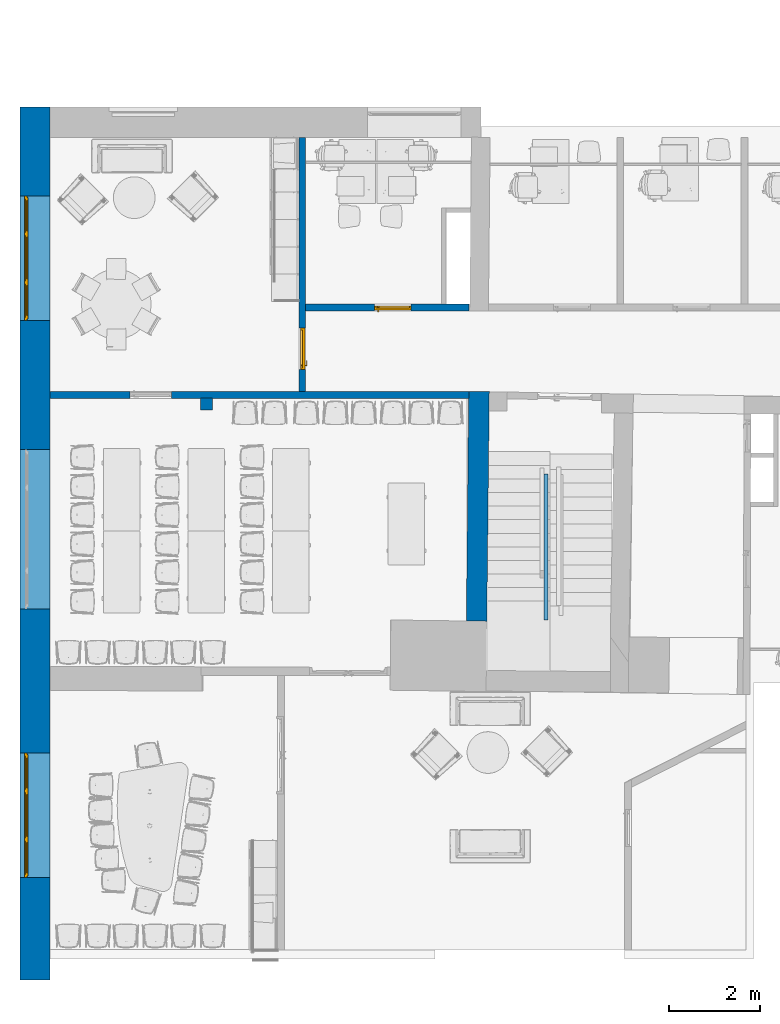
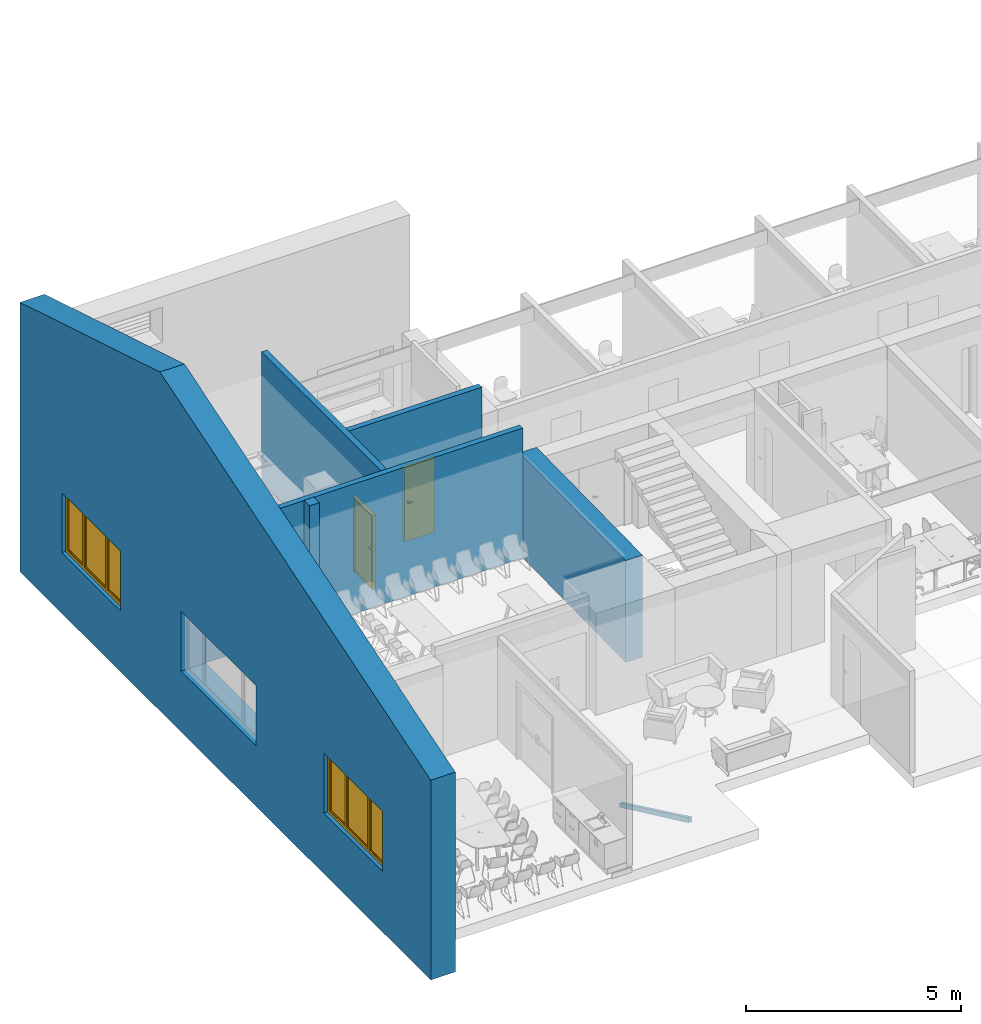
# One storey, part 2 of 19: 7 walls, 2 doors, 2 windows, 6 openings.
"""IFC2X3 building model written with IfcOpenShell, lengths in millimetres."""

import ifcopenshell
import ifcopenshell.guid

model = None  # the IFC model being written
_history = None  # IfcOwnerHistory: only IFC2X3 demands one
_inside = {}  # id of a spatial element -> (the spatial element, [elements in it])
_under = {}  # id of a project, library or spatial element -> (it, [spatial elements below it])
_declared = {}  # id of a project -> (the project, [libraries it declares])
_typed = {}  # id of a type object -> (the type object, [elements of that type])
_made_of = {}  # id of a material, layer set ... -> (it, [elements and type objects made of it])


def new_model(schema):
    """Start an empty IFC model of exactly this schema.

    Asked for "IFC4X3", IfcOpenShell would pick the latest addendum, in which some entities
    have other attributes; the version numbers below select the first issue.
    IFC2X3 requires an IfcOwnerHistory on every rooted entity: one is made here for all.
    """
    global model, _history
    if schema == "IFC4X3":
        model = ifcopenshell.file(schema_version=(4, 3, 0, 0))
    else:
        model = ifcopenshell.file(schema=schema)
    _inside.clear()
    _under.clear()
    _declared.clear()
    _typed.clear()
    _made_of.clear()
    _history = None
    if model.schema == "IFC2X3":
        org = make("IfcOrganization", Name="unknown")
        user = make(
            "IfcPersonAndOrganization",
            ThePerson=make("IfcPerson", FamilyName="unknown"),
            TheOrganization=org,
        )
        app = make(
            "IfcApplication",
            ApplicationDeveloper=org,
            Version="unknown",
            ApplicationFullName="unknown",
            ApplicationIdentifier="unknown",
        )
        _history = make(
            "IfcOwnerHistory",
            OwningUser=user,
            OwningApplication=app,
            ChangeAction="ADDED",
            CreationDate=0,
        )
    return model


def make(cls, **values):
    """One entity of the class cls with the attributes given. An attribute that is None is left unset."""
    return model.create_entity(
        cls, **{name: value for name, value in values.items() if value is not None}
    )


def entity(cls, *values):
    """Any entity or typed value of the class cls, its attributes in the order of the schema. None: left unset."""
    e = model.create_entity(cls)
    for i, value in enumerate(values):
        if value is not None:
            e[i] = value
    return e


def rooted(cls, **values):
    """An entity with a GlobalId (a new one), such as an element, a storey or a relation."""
    return make(cls, GlobalId=ifcopenshell.guid.new(), OwnerHistory=_history, **values)


def si_unit(unit_type, name, prefix=None):
    """IfcSIUnit, for example si_unit("LENGTHUNIT", "METRE", prefix="MILLI")."""
    return make("IfcSIUnit", UnitType=unit_type, Prefix=prefix, Name=name)


def converted_unit(unit_type, name, factor, base, dimensions=None, offset=None):
    """IfcConversionBasedUnit, such as the inch: factor (a typed value) times the base unit."""
    return make(
        "IfcConversionBasedUnit"
        if offset is None
        else "IfcConversionBasedUnitWithOffset",
        ConversionOffset=offset,
        Dimensions=None
        if dimensions is None
        else entity("IfcDimensionalExponents", *dimensions),
        UnitType=unit_type,
        Name=name,
        ConversionFactor=make(
            "IfcMeasureWithUnit", ValueComponent=factor, UnitComponent=base
        ),
    )


def derived_unit(unit_type, elements):
    """IfcDerivedUnit: a product of units, each with its exponent."""
    return make(
        "IfcDerivedUnit",
        Elements=[
            make("IfcDerivedUnitElement", Unit=unit, Exponent=power)
            for unit, power in elements
        ],
        UnitType=unit_type,
    )


def assignment(units):
    """IfcUnitAssignment: the units of a project."""
    return None if units is None else make("IfcUnitAssignment", Units=units)


def point(xyz):
    """IfcCartesianPoint."""
    return None if xyz is None else make("IfcCartesianPoint", Coordinates=xyz)


def direction(xyz):
    """IfcDirection."""
    return None if xyz is None else make("IfcDirection", DirectionRatios=xyz)


def frame(location, z_axis=None, x_axis=None):
    """IfcAxis2Placement3D, a coordinate frame: its origin and axes. An axis left out is left unset."""
    return make(
        "IfcAxis2Placement3D",
        Location=point(location),
        Axis=direction(z_axis),
        RefDirection=direction(x_axis),
    )


def frame_2d(location, x_axis=None):
    """IfcAxis2Placement2D, a coordinate frame in the plane: its origin and x axis."""
    return make(
        "IfcAxis2Placement2D", Location=point(location), RefDirection=direction(x_axis)
    )


def origin():
    """The frame at (0, 0, 0) with its axes left unset."""
    return frame((0.0, 0.0, 0.0))


def place(relative_to, where):
    """IfcLocalPlacement: puts the frame where relative to a parent placement (None: the world)."""
    return make(
        "IfcLocalPlacement", PlacementRelTo=relative_to, RelativePlacement=where
    )


def context(
    kind, dimensions, precision=None, world=None, true_north=None, identifier=None
):
    """IfcGeometricRepresentationContext, for example the 3D "Model" context."""
    return make(
        "IfcGeometricRepresentationContext",
        ContextIdentifier=identifier,
        ContextType=kind,
        CoordinateSpaceDimension=dimensions,
        Precision=precision,
        WorldCoordinateSystem=world,
        TrueNorth=true_north,
    )


def subcontext(parent, identifier, kind, view, scale=None):
    """IfcGeometricRepresentationSubContext, for example "Body" below "Model"."""
    return make(
        "IfcGeometricRepresentationSubContext",
        ContextIdentifier=identifier,
        ContextType=kind,
        ParentContext=parent,
        TargetScale=scale,
        TargetView=view,
    )


def project(units=None, contexts=None):
    """IfcProject with its units and contexts."""
    return rooted(
        "IfcProject",
        Name="project",
        RepresentationContexts=contexts,
        UnitsInContext=assignment(units),
    )


def spatial(cls, under=None, at=None, **own):
    """A site, building, storey or space (cls), placed at a placement, below another one or the project."""
    s = rooted(cls, ObjectPlacement=at, **own)
    if under is not None:
        _under.setdefault(under.id(), (under, []))[1].append(s)
    return s


def polyline(points):
    """IfcPolyline through the points."""
    return make("IfcPolyline", Points=[point(p) for p in points])


def profile(cls, at=None, kind="AREA", **sizes):
    """A parametric profile (cls). Its sizes go by their IFC names, for example OverallWidth=200.0."""
    return make(cls, ProfileType=kind, Position=at, **sizes)


def rectangle(**sizes):
    """IfcRectangleProfileDef."""
    return profile("IfcRectangleProfileDef", **sizes)


def outline(outer, holes=None, kind="AREA"):
    """IfcArbitraryClosedProfileDef: a profile drawn as a closed curve; with holes, ...WithVoids."""
    if holes is None:
        return make("IfcArbitraryClosedProfileDef", ProfileType=kind, OuterCurve=outer)
    return make(
        "IfcArbitraryProfileDefWithVoids",
        ProfileType=kind,
        OuterCurve=outer,
        InnerCurves=holes,
    )


def extrude(swept, where, along, depth):
    """IfcExtrudedAreaSolid: the profile swept, set in the frame where, extruded along a direction by depth."""
    return make(
        "IfcExtrudedAreaSolid",
        SweptArea=swept,
        Position=where,
        ExtrudedDirection=direction(along),
        Depth=depth,
    )


def clip(a, b, op="DIFFERENCE"):
    """IfcBooleanClippingResult: the solid a cut by the half space b."""
    return make(
        "IfcBooleanClippingResult", Operator=op, FirstOperand=a, SecondOperand=b
    )


def halfspace(plane, agree):
    """IfcHalfSpaceSolid: all space on one side of the plane z = 0 of the frame plane."""
    return make(
        "IfcHalfSpaceSolid",
        BaseSurface=make("IfcPlane", Position=plane),
        AgreementFlag=agree,
    )


def bounded_halfspace(plane, agree, where, boundary):
    """IfcPolygonalBoundedHalfSpace: a half space limited to a polygon's prism."""
    return make(
        "IfcPolygonalBoundedHalfSpace",
        BaseSurface=make("IfcPlane", Position=plane),
        AgreementFlag=agree,
        Position=where,
        PolygonalBoundary=boundary,
    )


def faces_of(points, faces, orient=None, outer=None):
    """IfcFace entities. A face is a list of loops; a loop is a list of indices into points, from 0.

    orient and outer hold one flag for each loop. By default every Orientation is true, the
    first loop of a face is its IfcFaceOuterBound and the others are IfcFaceBound.
    """
    made = []
    for i, loops in enumerate(faces):
        bounds = []
        for j, loop in enumerate(loops):
            is_outer = j == 0 if outer is None else outer[i][j]
            bounds.append(
                make(
                    "IfcFaceOuterBound" if is_outer else "IfcFaceBound",
                    Bound=make("IfcPolyLoop", Polygon=[points[k] for k in loop]),
                    Orientation=True if orient is None else orient[i][j],
                )
            )
        made.append(make("IfcFace", Bounds=bounds))
    return made


def faceted_brep(points, faces, orient=None, outer=None, voids=None):
    """IfcFacetedBrep: a solid bounded by flat faces; with voids (closed shells), ...WithVoids."""
    shared = [point(p) for p in points]
    hull = make("IfcClosedShell", CfsFaces=faces_of(shared, faces, orient, outer))
    if voids is None:
        return make("IfcFacetedBrep", Outer=hull)
    return make(
        "IfcFacetedBrepWithVoids",
        Outer=hull,
        Voids=[
            make(cls, CfsFaces=faces_of(shared, fs, o, b)) for cls, fs, o, b in voids
        ],
    )


def shape(context_of_items, identifier, shape_type, items):
    """IfcShapeRepresentation: the items that make up one representation, for example the "Body"."""
    return make(
        "IfcShapeRepresentation",
        ContextOfItems=context_of_items,
        RepresentationIdentifier=identifier,
        RepresentationType=shape_type,
        Items=items,
    )


def source(mapping_origin, context_of_items, identifier, shape_type, items):
    """IfcRepresentationMap: a shape defined once, which mapped items show again and again."""
    return make(
        "IfcRepresentationMap",
        MappingOrigin=mapping_origin,
        MappedRepresentation=shape(context_of_items, identifier, shape_type, items),
    )


def transform(
    local_origin,
    x_axis=None,
    y_axis=None,
    z_axis=None,
    scale=None,
    scale2=None,
    scale3=None,
    uniform=True,
):
    """IfcCartesianTransformationOperator3D, or its non-uniform kind. x_axis, y_axis, z_axis: its Axis1, 2, 3."""
    if uniform:
        return make(
            "IfcCartesianTransformationOperator3D",
            Axis1=direction(x_axis),
            Axis2=direction(y_axis),
            LocalOrigin=point(local_origin),
            Scale=scale,
            Axis3=direction(z_axis),
        )
    return make(
        "IfcCartesianTransformationOperator3DnonUniform",
        Axis1=direction(x_axis),
        Axis2=direction(y_axis),
        LocalOrigin=point(local_origin),
        Scale=scale,
        Axis3=direction(z_axis),
        Scale2=scale2,
        Scale3=scale3,
    )


def mapped(mapping_source, mapping_target):
    """IfcMappedItem: shows the shape of a source again, moved by a transform."""
    return make(
        "IfcMappedItem", MappingSource=mapping_source, MappingTarget=mapping_target
    )


def material(Name=None, Category=None):
    """IfcMaterial."""
    return make("IfcMaterial", Name=Name, Category=Category)


def material_list(materials):
    """IfcMaterialList."""
    return make("IfcMaterialList", Materials=materials)


def layer(
    of_material, thickness, ventilated=None, Name=None, Category=None, Priority=None
):
    """IfcMaterialLayer: one layer of a wall or slab, of a material (None: an air gap)."""
    return make(
        "IfcMaterialLayer",
        Material=of_material,
        LayerThickness=thickness,
        IsVentilated=ventilated,
        Name=Name,
        Category=Category,
        Priority=Priority,
    )


def layer_set(layers, Name=None):
    """IfcMaterialLayerSet."""
    return make("IfcMaterialLayerSet", MaterialLayers=layers, LayerSetName=Name)


def layer_usage(for_layer_set, set_direction, sense, offset, extent=None):
    """IfcMaterialLayerSetUsage: how a layer set lies in its element."""
    return make(
        "IfcMaterialLayerSetUsage",
        ForLayerSet=for_layer_set,
        LayerSetDirection=set_direction,
        DirectionSense=sense,
        OffsetFromReferenceLine=offset,
        ReferenceExtent=extent,
    )


def made_of(thing, what):
    """Note that an element or type object is made of a material, layer set ...; save() writes the relation."""
    if what is not None:
        _made_of.setdefault(what.id(), (what, []))[1].append(thing)
    return thing


def type_object(cls, material=None, **own):
    """A type object (cls), such as IfcWallType, which elements share."""
    return made_of(rooted(cls, **own), material)


def type_shapes(of_type, sources):
    """Give a type object the sources (RepresentationMaps) that its elements show as mapped items."""
    of_type.RepresentationMaps = sources


def element(
    cls,
    number,
    at=None,
    inside=None,
    cuts=None,
    type_object=None,
    material=None,
    context=None,
    identifier="Body",
    shape_type=None,
    held_by="IfcProductDefinitionShape",
    body=None,
    shapes=None,
    **own,
):
    """One element of the class cls, such as IfcWall. Its Tag is "e" and its number.

    at: its placement. inside: the storey or other place that contains it. cuts: it is an
    opening in that element (IfcRelVoidsElement). A single representation is given by context,
    identifier, shape_type and body (its items); several are given by shapes. held_by: the class
    of the entity that holds the representations. save() writes the other relations.
    """
    e = rooted(cls, Tag="e%d" % number, ObjectPlacement=at, **own)
    if body is not None:
        shapes = [shape(context, identifier, shape_type, body)]
    if shapes is not None:
        e.Representation = make(held_by, Representations=shapes)
    if inside is not None:
        _inside.setdefault(inside.id(), (inside, []))[1].append(e)
    if cuts is not None:
        rooted(
            "IfcRelVoidsElement", RelatingBuildingElement=cuts, RelatedOpeningElement=e
        )
    if type_object is not None:
        _typed.setdefault(type_object.id(), (type_object, []))[1].append(e)
    return made_of(e, material)


def fill(opening, filler):
    """IfcRelFillsElement: the door or window that sits in an opening."""
    return rooted(
        "IfcRelFillsElement",
        RelatingOpeningElement=opening,
        RelatedBuildingElement=filler,
    )


def aggregate(whole, parts):
    """IfcRelAggregates: a whole, such as a stair, and the parts it consists of."""
    return rooted("IfcRelAggregates", RelatingObject=whole, RelatedObjects=parts)


def save(model, path):
    """Write the relations noted so far, then the file.

    IfcRelAggregates (storeys below a building ...), IfcRelContainedInSpatialStructure (elements
    in a storey), IfcRelDefinesByType, IfcRelAssociatesMaterial and IfcRelDeclares: one each for
    every whole, place, type object, material and project.
    """
    for whole, parts in _under.values():
        aggregate(whole, parts)
    for where, things in _inside.values():
        rooted(
            "IfcRelContainedInSpatialStructure",
            RelatedElements=things,
            RelatingStructure=where,
        )
    for kind, things in _typed.values():
        rooted("IfcRelDefinesByType", RelatedObjects=things, RelatingType=kind)
    for what, things in _made_of.values():
        rooted("IfcRelAssociatesMaterial", RelatedObjects=things, RelatingMaterial=what)
    for by, libraries in _declared.values():
        rooted("IfcRelDeclares", RelatingContext=by, RelatedDefinitions=libraries)
    model.write(path)


model = new_model("IFC2X3")

# Units and contexts
model_context = context("Model", 3, precision=0.01, world=origin(), true_north=direction((6.12303176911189e-17, 1.0)))
context_of_model = context(None, 3, precision=0.01, world=origin(), true_north=direction((6.12303176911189e-17, 1.0)))
body_context = subcontext(model_context, "Body", "Model", "MODEL_VIEW")
ifc_project = project(units=[si_unit("LENGTHUNIT", "METRE", prefix="MILLI"), si_unit("AREAUNIT", "SQUARE_METRE"), si_unit("VOLUMEUNIT", "CUBIC_METRE"), converted_unit("PLANEANGLEUNIT", "DEGREE", entity("IfcRatioMeasure", 0.0174532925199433), si_unit("PLANEANGLEUNIT", "RADIAN"), dimensions=[0, 0, 0, 0, 0, 0, 0]), si_unit("MASSUNIT", "GRAM", prefix="KILO"), derived_unit("MASSDENSITYUNIT", [(si_unit("MASSUNIT", "GRAM", prefix="KILO"), 1), (si_unit("LENGTHUNIT", "METRE"), -3)]), si_unit("TIMEUNIT", "SECOND"), si_unit("FREQUENCYUNIT", "HERTZ"), si_unit("THERMODYNAMICTEMPERATUREUNIT", "DEGREE_CELSIUS"), derived_unit("THERMALTRANSMITTANCEUNIT", [(si_unit("MASSUNIT", "GRAM", prefix="KILO"), 1), (si_unit("THERMODYNAMICTEMPERATUREUNIT", "KELVIN"), -1), (si_unit("TIMEUNIT", "SECOND"), -3)]), derived_unit("VOLUMETRICFLOWRATEUNIT", [(si_unit("LENGTHUNIT", "METRE"), 3), (si_unit("TIMEUNIT", "SECOND"), -1)]), si_unit("ELECTRICCURRENTUNIT", "AMPERE"), si_unit("ELECTRICVOLTAGEUNIT", "VOLT"), si_unit("POWERUNIT", "WATT"), si_unit("FORCEUNIT", "NEWTON", prefix="KILO"), si_unit("ILLUMINANCEUNIT", "LUX"), si_unit("LUMINOUSFLUXUNIT", "LUMEN"), si_unit("LUMINOUSINTENSITYUNIT", "CANDELA"), derived_unit("USERDEFINED", [(si_unit("MASSUNIT", "GRAM", prefix="KILO"), -1), (si_unit("LENGTHUNIT", "METRE"), -2), (si_unit("TIMEUNIT", "SECOND"), 3), (si_unit("LUMINOUSFLUXUNIT", "LUMEN"), 1)]), derived_unit("LINEARVELOCITYUNIT", [(si_unit("LENGTHUNIT", "METRE"), 1), (si_unit("TIMEUNIT", "SECOND"), -1)]), si_unit("PRESSUREUNIT", "PASCAL"), derived_unit("USERDEFINED", [(si_unit("LENGTHUNIT", "METRE"), -2), (si_unit("MASSUNIT", "GRAM", prefix="KILO"), 1), (si_unit("TIMEUNIT", "SECOND"), -2)])], contexts=[model_context, context_of_model])

# Site, building, storey
site_placement = place(None, frame((121442.264707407, 135347.995453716, -1800.0)))
site = spatial("IfcSite", under=ifc_project, at=site_placement, Name="Surface", CompositionType="ELEMENT")
building_placement = place(site_placement, origin())
building = spatial("IfcBuilding", under=site, at=building_placement, CompositionType="ELEMENT")
storey_placement = place(building_placement, frame((0.0, 0.0, 5125.0)))
storey = spatial("IfcBuildingStorey", under=building, at=storey_placement, Name="2 korrus", CompositionType="ELEMENT", Elevation=5125.00000000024)

# Walls
ifc_material_1 = material(Name="__Betoonelement")
ifc_layer_1 = layer(ifc_material_1, 260.0)
ifc_layer_set_1 = layer_set([ifc_layer_1], Name="Basic Wall:26_Betoon 2")
ifc_layer_usage_1 = layer_usage(ifc_layer_set_1, "AXIS2", "NEGATIVE", 130.0)
wall_type_1 = type_object("IfcWallType", Name="Basic Wall:26_Betoon 2", PredefinedType="STANDARD", material=ifc_layer_set_1)
wall_1_placement = place(storey_placement, frame((-115640.776610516, -121186.464570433, 0.0)))
element("IfcWallStandardCase", 1, at=wall_1_placement, inside=storey, type_object=wall_type_1, material=ifc_layer_usage_1, Name="Basic Wall:26_Betoon 2", ObjectType="Basic Wall:26_Betoon 2", context=body_context, shape_type="SweptSolid", body=[
    extrude(rectangle(XDim=260.00000000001, YDim=260.00000000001, at=frame_2d((130.000000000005, 0.0), x_axis=(-1.0, 0.0))), origin(), (0.0, 0.0, 1.0), 3690.0),
])
ifc_layer_2 = layer(ifc_material_1, 450.0)
ifc_layer_set_2 = layer_set([ifc_layer_2], Name="Basic Wall:45_Betoon")
ifc_layer_usage_2 = layer_usage(ifc_layer_set_2, "AXIS2", "NEGATIVE", 225.0)
wall_type_2 = type_object("IfcWallType", Name="Basic Wall:45_Betoon", PredefinedType="STANDARD", material=ifc_layer_set_2)
wall_2_placement = place(storey_placement, frame((-109590.587606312, -125945.744209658, 0.0), z_axis=(0.0, 0.0, 1.0), x_axis=(0.0106150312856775, 0.999943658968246, 0.0)))
element("IfcWallStandardCase", 2, at=wall_2_placement, inside=storey, type_object=wall_type_2, material=ifc_layer_usage_2, Name="Basic Wall:45_Betoon", ObjectType="Basic Wall:45_Betoon", context=body_context, shape_type="Clipping", body=[
    clip(extrude(outline(polyline([(5030.25668650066, -225.0), (5032.99875994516, 225.0), (1.43126524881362, 225.0), (0.0, -225.0), (4610.24888912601, -225.0), (5030.25668650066, -225.0)])), origin(), (0.0, 0.0, 1.0), 2897.0), bounded_halfspace(frame((3326.68708343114, -225.0, 2897.0), z_axis=(0.0, 0.0, -1.0), x_axis=(-0.999943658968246, -0.0106150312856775, 0.0)), True, frame((3326.68708343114, -225.0, 2897.0)), polyline([(0.0, 0.0), (1283.56180569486, 0.0), (1703.56960306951, 0.0), (1704.87240667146, 213.802304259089), (-2.07728715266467, 195.681958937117), (0.0, 0.0)]))),
])

# Wall, openings, windows
ifc_material_2 = material(Name="Plaster")
ifc_layer_3 = layer(ifc_material_2, 10.0)
ifc_material_3 = material(Name="Polystyrene")
ifc_layer_4 = layer(ifc_material_3, 150.0)
ifc_layer_5 = layer(ifc_material_1, 500.0)
ifc_layer_set_3 = layer_set([ifc_layer_3, ifc_layer_4, ifc_layer_5], Name="Basic Wall:Olemasolev Soojustatud Välissein")
ifc_layer_usage_3 = layer_usage(ifc_layer_set_3, "AXIS2", "NEGATIVE", 330.0)
wall_type_3 = type_object("IfcWallType", Name="Basic Wall:Olemasolev Soojustatud Välissein", PredefinedType="STANDARD", material=ifc_layer_set_3)
wall_3_placement = place(storey_placement, frame((-119265.776610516, -133809.317476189, -826.94497628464), z_axis=(0.0, 0.0, 1.0), x_axis=(0.0, 1.0, 0.0)))
wall_3 = element("IfcWallStandardCase", 3, at=wall_3_placement, inside=storey, type_object=wall_type_3, material=ifc_layer_usage_3, Name="Basic Wall:Olemasolev Soojustatud Välissein", ObjectType="Basic Wall:Olemasolev Soojustatud Välissein", context=body_context, shape_type="Clipping", body=[
    clip(clip(extrude(rectangle(XDim=19127.3983638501, YDim=659.999999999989, at=frame_2d((9563.69918192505, -5.6843418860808e-14), x_axis=(-1.0, 0.0))), origin(), (0.0, 0.0, 1.0), 9629.49814305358), halfspace(frame((12614.5928956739, -330.0, 9629.49814305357), z_axis=(0.289651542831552, 0.0, 0.957132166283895), x_axis=(0.0, 1.0, 0.0)), False)), halfspace(frame((0.0, -330.0, 5674.42025918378), z_axis=(-0.299171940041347, 0.0, 0.954199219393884), x_axis=(0.0, 1.0, 0.0)), False)),
])
opening_1_placement = place(wall_3_placement, frame((14452.3983638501, -330.0, 1726.94497628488)))
opening_1 = element("IfcOpeningElement", 4, at=opening_1_placement, cuts=wall_3, Name="sma_W5:A-4 2470 x 1200mm Avatav:1", ObjectType="Opening", context=body_context, shape_type="SweptSolid", body=[
    extrude(rectangle(XDim=1700.0, YDim=2730.0, at=frame_2d((850.0, 1365.0), x_axis=(1.0, 0.0))), frame((0.0, 0.0, 0.0), z_axis=(0.0, 1.0, 0.0), x_axis=(0.0, 0.0, 1.0)), (0.0, 0.0, 1.0), 660.0),
])
opening_2_placement = place(wall_3_placement, frame((8133.67684417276, -330.0, 1726.94497628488)))
element("IfcOpeningElement", 5, at=opening_2_placement, cuts=wall_3, Name="sma_W5:A-3 3490 x 1700mm Avatav:1", ObjectType="Opening", context=body_context, shape_type="SweptSolid", body=[
    extrude(rectangle(XDim=1700.0, YDim=3490.0, at=frame_2d((850.0, 1745.0), x_axis=(1.0, 0.0))), frame((0.0, 0.0, 0.0), z_axis=(0.0, 1.0, 0.0), x_axis=(0.0, 0.0, 1.0)), (0.0, 0.0, 1.0), 660.0),
])
opening_3_placement = place(wall_3_placement, frame((2245.0, -330.0, 1726.94497628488)))
opening_3 = element("IfcOpeningElement", 6, at=opening_3_placement, cuts=wall_3, Name="sma_W5:A-4 2470 x 1200mm Avatav:1", ObjectType="Opening", context=body_context, shape_type="SweptSolid", body=[
    extrude(rectangle(XDim=1700.0, YDim=2730.0, at=frame_2d((850.0, 1365.0), x_axis=(1.0, 0.0))), frame((0.0, 0.0, 0.0), z_axis=(0.0, 1.0, 0.0), x_axis=(0.0, 0.0, 1.0)), (0.0, 0.0, 1.0), 660.0),
])
ifc_material_4 = material(Name="Glass")
ifc_material_5 = material(Name="Default")
ifc_material_6 = material(Name="PVC, Flexible")
ifc_material_list_1 = material_list([ifc_material_4, ifc_material_5, ifc_material_6])
ifc_material_list_2 = material_list([ifc_material_4, ifc_material_5, ifc_material_6])
window_style = type_object("IfcWindowStyle", Name="A-4 2470 x 1200mm Avatav", ConstructionType="OTHER_CONSTRUCTION", OperationType="NOTDEFINED", ParameterTakesPrecedence=False, Sizeable=False, material=ifc_material_list_2)
shared_shape_1 = source(origin(), body_context, "Body", "Brep", [
    faceted_brep([(105.0, 501.410937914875, 105.0), (765.0, 501.410937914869, 105.0), (765.0, 501.410937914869, 1595.0), (105.0, 501.410937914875, 1595.0), (105.0, 521.410937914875, 105.0), (765.0, 521.410937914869, 105.0), (765.0, 521.410937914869, 1595.0), (105.0, 521.410937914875, 1595.0)], [[[0, 1, 2, 3]], [[1, 0, 4, 5]], [[2, 1, 5, 6]], [[0, 3, 7, 4]], [[4, 7, 6, 5]], [[3, 2, 6, 7]]]),
    faceted_brep([(905.0, 501.410937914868, 105.0), (1825.0, 501.410937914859, 105.0), (1825.0, 501.410937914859, 1595.0), (905.0, 501.410937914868, 1595.0), (905.0, 521.410937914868, 105.0), (1825.0, 521.410937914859, 105.0), (1825.0, 521.410937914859, 1595.0), (905.0, 521.410937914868, 1595.0)], [[[0, 1, 2, 3]], [[1, 0, 4, 5]], [[2, 1, 5, 6]], [[0, 3, 7, 4]], [[4, 7, 6, 5]], [[3, 2, 6, 7]]]),
    faceted_brep([(1965.0, 501.410937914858, 105.0), (2625.0, 501.410937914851, 105.0), (2625.0, 501.410937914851, 1595.0), (1965.0, 501.410937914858, 1595.0), (1965.0, 521.410937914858, 105.0), (2625.0, 521.410937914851, 105.0), (2625.0, 521.410937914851, 1595.0), (1965.0, 521.410937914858, 1595.0)], [[[0, 1, 2, 3]], [[1, 0, 4, 5]], [[2, 1, 5, 6]], [[0, 3, 7, 4]], [[4, 7, 6, 5]], [[3, 2, 6, 7]]]),
    faceted_brep([(35.0, 486.410937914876, 35.0), (835.0, 486.410937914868, 35.0), (835.0, 486.410937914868, 1665.0), (35.0, 486.410937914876, 1665.0), (105.0, 486.410937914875, 105.0), (105.0, 486.410937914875, 1595.0), (765.0, 486.410937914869, 1595.0), (765.0, 486.410937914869, 105.0), (35.0, 536.410937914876, 35.0), (835.0, 536.410937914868, 35.0), (835.0, 536.410937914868, 1665.0), (35.0, 536.410937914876, 1665.0), (105.0, 536.410937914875, 105.0), (105.0, 536.410937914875, 1595.0), (765.0, 536.410937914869, 1595.0), (765.0, 536.410937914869, 105.0)], [[[0, 1, 2, 3], [4, 5, 6, 7]], [[1, 0, 8, 9]], [[2, 1, 9, 10]], [[0, 3, 11, 8]], [[5, 4, 12, 13]], [[7, 6, 14, 15]], [[4, 7, 15, 12]], [[8, 11, 10, 9], [12, 15, 14, 13]], [[3, 2, 10, 11]], [[6, 5, 13, 14]]]),
    faceted_brep([(835.0, 486.410937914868, 35.0), (1895.0, 486.410937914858, 35.0), (1895.0, 486.410937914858, 1665.0), (835.0, 486.410937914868, 1665.0), (905.0, 486.410937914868, 1595.0), (1825.0, 486.410937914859, 1595.0), (1825.0, 486.410937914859, 105.0), (905.0, 486.410937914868, 105.0), (835.0, 536.410937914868, 35.0), (1895.0, 536.410937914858, 35.0), (1895.0, 536.410937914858, 1665.0), (835.0, 536.410937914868, 1665.0), (1825.0, 536.410937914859, 1595.0), (1825.0, 536.410937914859, 105.0), (905.0, 536.410937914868, 105.0), (905.0, 536.410937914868, 1595.0)], [[[0, 1, 2, 3], [4, 5, 6, 7]], [[1, 0, 8, 9]], [[2, 1, 9, 10]], [[0, 3, 11, 8]], [[6, 5, 12, 13]], [[7, 6, 13, 14]], [[4, 7, 14, 15]], [[8, 11, 10, 9], [15, 14, 13, 12]], [[3, 2, 10, 11]], [[5, 4, 15, 12]]]),
    faceted_brep([(1895.0, 486.410937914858, 1665.0), (1895.0, 486.410937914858, 35.0), (2695.0, 486.410937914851, 35.0), (2695.0, 486.410937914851, 1665.0), (1965.0, 486.410937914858, 1595.0), (2625.0, 486.410937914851, 1595.0), (2625.0, 486.410937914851, 105.0), (1965.0, 486.410937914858, 105.0), (1895.0, 536.410937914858, 1665.0), (1895.0, 536.410937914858, 35.0), (2695.0, 536.410937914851, 35.0), (2695.0, 536.410937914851, 1665.0), (2625.0, 536.410937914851, 1595.0), (2625.0, 536.410937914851, 105.0), (1965.0, 536.410937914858, 105.0), (1965.0, 536.410937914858, 1595.0)], [[[0, 1, 2, 3], [4, 5, 6, 7]], [[1, 0, 8, 9]], [[2, 1, 9, 10]], [[3, 2, 10, 11]], [[6, 5, 12, 13]], [[7, 6, 13, 14]], [[4, 7, 14, 15]], [[15, 14, 13, 12], [8, 11, 10, 9]], [[0, 3, 11, 8]], [[5, 4, 15, 12]]], outer=[[True, False], [True], [True], [True], [True], [True], [True], [False, True], [True], [True]]),
    faceted_brep([(0.0, 511.410937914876, 0.0), (2730.0, 511.41093791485, 0.0), (2730.0, 511.41093791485, 1700.0), (0.0, 511.410937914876, 1700.0), (35.0, 511.410937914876, 1665.0), (2695.0, 511.410937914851, 1665.0), (2695.0, 511.410937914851, 35.0), (35.0, 511.410937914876, 35.0), (0.0, 561.410937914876, 0.0), (2730.0, 561.41093791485, 0.0), (2730.0, 561.41093791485, 1700.0), (0.0, 561.410937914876, 1700.0), (2695.0, 536.410937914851, 1665.0), (2695.0, 536.410937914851, 35.0), (35.0, 536.410937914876, 35.0), (35.0, 536.410937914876, 1665.0), (70.0, 561.410937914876, 70.0), (800.0, 561.410937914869, 70.0), (800.0, 561.410937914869, 1630.0), (70.0, 561.410937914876, 1630.0), (870.0, 561.410937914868, 1630.0), (870.0, 561.410937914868, 70.0), (1860.0, 561.410937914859, 70.0), (1860.0, 561.410937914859, 1630.0), (1930.0, 561.410937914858, 70.0), (2660.0, 561.410937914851, 70.0), (2660.0, 561.410937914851, 1630.0), (1930.0, 561.410937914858, 1630.0), (1930.0, 536.410937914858, 70.0), (2660.0, 536.410937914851, 70.0), (2660.0, 536.410937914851, 1630.0), (1930.0, 536.410937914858, 1630.0), (870.0, 536.410937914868, 1630.0), (870.0, 536.410937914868, 70.0), (1860.0, 536.410937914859, 70.0), (1860.0, 536.410937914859, 1630.0), (70.0, 536.410937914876, 70.0), (800.0, 536.410937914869, 70.0), (800.0, 536.410937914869, 1630.0), (70.0, 536.410937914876, 1630.0)], [[[0, 1, 2, 3], [4, 5, 6, 7]], [[1, 0, 8, 9]], [[2, 1, 9, 10]], [[0, 3, 11, 8]], [[12, 13, 6, 5]], [[6, 13, 14, 7]], [[14, 15, 4, 7]], [[8, 11, 10, 9], [16, 17, 18, 19], [20, 21, 22, 23], [24, 25, 26, 27]], [[25, 24, 28, 29]], [[26, 25, 29, 30]], [[24, 27, 31, 28]], [[21, 20, 32, 33]], [[22, 21, 33, 34]], [[23, 22, 34, 35]], [[17, 16, 36, 37]], [[18, 17, 37, 38]], [[16, 19, 39, 36]], [[13, 12, 15, 14], [28, 31, 30, 29], [36, 39, 38, 37], [32, 35, 34, 33]], [[3, 2, 10, 11]], [[27, 26, 30, 31]], [[20, 23, 35, 32]], [[19, 18, 38, 39]], [[15, 12, 5, 4]]]),
])
type_shapes(window_style, [shared_shape_1])
window_1_placement = place(opening_1_placement, origin())
window_1 = element("IfcWindow", 7, at=window_1_placement, inside=storey, type_object=window_style, material=ifc_material_list_1, Name="sma_W5:A-4 2470 x 1200mm Avatav", ObjectType="A-4 2470 x 1200mm Avatav", OverallHeight=1700.0, OverallWidth=2730.0, context=body_context, shape_type="MappedRepresentation", body=[
    mapped(shared_shape_1, transform((0.0, 0.0, 0.0), scale=1.0)),
])
fill(opening_1, window_1)
ifc_material_list_3 = material_list([ifc_material_4, ifc_material_5, ifc_material_6])
window_2_placement = place(opening_3_placement, origin())
window_2 = element("IfcWindow", 8, at=window_2_placement, inside=storey, type_object=window_style, material=ifc_material_list_3, Name="sma_W5:A-4 2470 x 1200mm Avatav", ObjectType="A-4 2470 x 1200mm Avatav", OverallHeight=1700.0, OverallWidth=2730.0, context=body_context, shape_type="MappedRepresentation", body=[
    mapped(shared_shape_1, transform((0.0, 0.0, 0.0), scale=1.0)),
])
fill(opening_3, window_2)

# Wall, opening, door
ifc_layer_6 = layer(ifc_material_2, 10.0)
ifc_material_7 = material(Name="EST. Müüritis. Väikeplokk. Kergkruusplokk")
ifc_layer_7 = layer(ifc_material_7, 130.0)
ifc_layer_8 = layer(ifc_material_2, 10.0)
ifc_layer_set_4 = layer_set([ifc_layer_6, ifc_layer_7, ifc_layer_8], Name="Basic Wall:15_FIBO")
ifc_layer_usage_4 = layer_usage(ifc_layer_set_4, "AXIS2", "NEGATIVE", 75.0)
wall_type_4 = type_object("IfcWallType", Name="Basic Wall:15_FIBO", PredefinedType="STANDARD", material=ifc_layer_set_4)
wall_4_placement = place(storey_placement, frame((-109739.254632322, -119074.337196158, 0.0), z_axis=(0.0, 0.0, 1.0), x_axis=(-1.0, 0.0, 0.0)))
wall_4 = element("IfcWallStandardCase", 9, at=wall_4_placement, inside=storey, type_object=wall_type_4, material=ifc_layer_usage_4, Name="Basic Wall:15_FIBO", ObjectType="Basic Wall:15_FIBO", context=body_context, shape_type="SweptSolid", body=[
    extrude(rectangle(XDim=3574.56768611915, YDim=150.000000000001, at=frame_2d((1809.00959079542, 1.13686837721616e-13), x_axis=(1.0, 0.0))), origin(), (0.0, 0.0, 1.0), 3690.0),
])
opening_4_placement = place(wall_4_placement, frame((1282.68863007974, -75.0, 0.0)))
opening_4 = element("IfcOpeningElement", 10, at=opening_4_placement, cuts=wall_4, Name="sma_D01:810 x 2110_SU-01 Siseuks:1", ObjectType="Opening", context=body_context, shape_type="SweptSolid", body=[
    extrude(rectangle(XDim=2099.99999999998, YDim=810.0, at=frame_2d((1049.99999999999, 405.000000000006), x_axis=(1.0, 0.0))), frame((0.0, 0.0, 0.0), z_axis=(0.0, 1.0, 0.0), x_axis=(0.0, 0.0, 1.0)), (0.0, 0.0, 1.0), 150.0),
])
ifc_material_8 = material(Name="Metal - Aluminium")
ifc_material_9 = material(Name="Door - Panel_valge")
ifc_material_list_4 = material_list([ifc_material_8, ifc_material_9])
ifc_material_list_5 = material_list([ifc_material_8, ifc_material_9])
door_style_1 = type_object("IfcDoorStyle", Name="810 x 2110_SU-01 Siseuks", ConstructionType="NOTDEFINED", OperationType="SINGLE_SWING_LEFT", ParameterTakesPrecedence=False, Sizeable=False, material=ifc_material_list_5)
shared_shape_2 = source(origin(), body_context, "Body", "Brep", [
    faceted_brep([(710.0, 40.0, 1112.5), (615.0, 40.0, 1112.5), (615.0, 35.0, 1112.5), (735.0, 35.0, 1112.5), (735.0, 78.0, 1112.5), (710.0, 78.0, 1112.5), (710.0, 40.0, 1087.5), (710.0, 78.0, 1087.5), (735.0, 78.0, 1087.5), (735.0, 35.0, 1087.5), (615.0, 35.0, 1087.5), (615.0, 40.0, 1087.5)], [[[0, 1, 2, 3, 4, 5]], [[6, 7, 8, 9, 10, 11]], [[5, 7, 6, 0]], [[4, 8, 7, 5]], [[3, 9, 8, 4]], [[2, 10, 9, 3]], [[1, 11, 10, 2]], [[0, 6, 11, 1]]]),
    faceted_brep([(697.500000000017, 78.0, 1137.5), (747.500000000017, 78.0, 1137.5), (747.500000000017, 80.0, 1137.5), (697.500000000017, 80.0, 1137.5), (697.500000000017, 78.0, 1017.5), (697.500000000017, 80.0, 1017.5), (747.500000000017, 80.0, 1017.5), (747.500000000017, 78.0, 1017.5)], [[[0, 1, 2, 3]], [[4, 5, 6, 7]], [[3, 5, 4, 0]], [[2, 6, 5, 3]], [[1, 7, 6, 2]], [[0, 4, 7, 1]]]),
    faceted_brep([(710.0, 170.0, 1112.5), (710.0, 132.0, 1112.5), (735.0, 132.0, 1112.5), (735.0, 175.0, 1112.5), (615.0, 175.0, 1112.5), (615.0, 170.0, 1112.5), (710.0, 170.0, 1087.5), (615.0, 170.0, 1087.5), (615.0, 175.0, 1087.5), (735.0, 175.0, 1087.5), (735.0, 132.0, 1087.5), (710.0, 132.0, 1087.5)], [[[0, 1, 2, 3, 4, 5]], [[6, 7, 8, 9, 10, 11]], [[1, 0, 6, 11]], [[2, 1, 11, 10]], [[3, 2, 10, 9]], [[4, 3, 9, 8]], [[5, 4, 8, 7]], [[0, 5, 7, 6]]]),
    faceted_brep([(697.500000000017, 132.0, 1137.5), (697.500000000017, 130.0, 1137.5), (747.500000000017, 130.0, 1137.5), (747.500000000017, 132.0, 1137.5), (697.500000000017, 132.0, 1017.5), (747.500000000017, 132.0, 1017.5), (747.500000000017, 130.0, 1017.5), (697.500000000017, 130.0, 1017.5)], [[[0, 1, 2, 3]], [[4, 5, 6, 7]], [[1, 0, 4, 7]], [[2, 1, 7, 6]], [[3, 2, 6, 5]], [[0, 3, 5, 4]]]),
    faceted_brep([(0.0, 40.0, 0.0), (0.0, 130.0, 0.0), (25.0, 130.0, 0.0), (25.0, 80.0, 0.0), (40.0, 80.0, 0.0), (40.0, 40.0, 0.0), (40.0, 40.0, 2060.0), (770.0, 40.0, 2060.0), (770.0, 40.0, 0.0), (810.0, 40.0, 0.0), (810.0, 40.0, 2100.0), (0.0, 40.0, 2100.0), (40.0, 80.0, 2060.0), (25.0, 80.0, 2075.0), (785.0, 80.0, 2075.0), (785.0, 80.0, 0.0), (770.0, 80.0, 0.0), (770.0, 80.0, 2060.0), (25.0, 130.0, 2075.0), (0.0, 130.0, 2100.0), (810.0, 130.0, 2100.0), (810.0, 130.0, 0.0), (785.0, 130.0, 0.0), (785.0, 130.0, 2075.0)], [[[0, 1, 2, 3, 4, 5]], [[5, 6, 7, 8, 9, 10, 11, 0]], [[4, 12, 6, 5]], [[3, 13, 14, 15, 16, 17, 12, 4]], [[2, 18, 13, 3]], [[1, 19, 20, 21, 22, 23, 18, 2]], [[0, 11, 19, 1]], [[10, 9, 21, 20]], [[9, 8, 16, 15, 22, 21]], [[17, 16, 8, 7]], [[23, 22, 15, 14]], [[12, 17, 7, 6]], [[18, 23, 14, 13]], [[11, 10, 20, 19]]]),
    faceted_brep([(785.0, 80.0, 2075.0), (25.0, 80.0, 2075.0), (25.0, 80.0, 20.0), (785.0, 80.0, 20.0), (785.0, 130.0, 2075.0), (785.0, 130.0, 20.0), (25.0, 130.0, 20.0), (25.0, 130.0, 2075.0)], [[[0, 1, 2, 3]], [[4, 5, 6, 7]], [[3, 5, 4, 0]], [[2, 6, 5, 3]], [[1, 7, 6, 2]], [[0, 4, 7, 1]]]),
    faceted_brep([(40.0, 40.0, 30.0), (40.0, 80.0, 30.0), (40.0, 80.0, 20.0), (40.0, 80.0, 0.0), (40.0, 40.0, 0.0), (770.0, 40.0, 30.0), (770.0, 40.0, 0.0), (770.0, 80.0, 0.0), (770.0, 80.0, 20.0), (770.0, 80.0, 30.0), (25.0, 80.0, 0.0), (25.0, 130.0, 0.0), (785.0, 130.0, 0.0), (785.0, 80.0, 0.0), (25.0, 130.0, 20.0), (25.0, 80.0, 20.0), (785.0, 130.0, 20.0), (785.0, 80.0, 20.0)], [[[0, 1, 2, 3, 4]], [[5, 6, 7, 8, 9]], [[4, 6, 5, 0]], [[3, 10, 11, 12, 13, 7, 6, 4]], [[9, 8, 2, 1]], [[0, 5, 9, 1]], [[14, 11, 10, 15]], [[16, 17, 13, 12]], [[15, 2, 8, 17, 16, 14]], [[10, 3, 2, 15]], [[14, 16, 12, 11]], [[17, 8, 7, 13]]]),
])
type_shapes(door_style_1, [shared_shape_2])
door_1_placement = place(opening_4_placement, origin())
door_1 = element("IfcDoor", 11, at=door_1_placement, inside=storey, type_object=door_style_1, material=ifc_material_list_4, Name="sma_D01:810 x 2110_SU-01 Siseuks", ObjectType="810 x 2110_SU-01 Siseuks", OverallHeight=2099.99999999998, OverallWidth=810.000000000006, context=body_context, shape_type="MappedRepresentation", body=[
    mapped(shared_shape_2, transform((0.0, 0.0, 0.0), scale=1.0)),
])
fill(opening_4, door_1)

# Wall, opening
ifc_layer_usage_5 = layer_usage(ifc_layer_set_4, "AXIS2", "POSITIVE", -75.0)
wall_5_placement = place(storey_placement, frame((-109760.980380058, -120991.464570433, 0.0), z_axis=(0.0, 0.0, 1.0), x_axis=(-1.0, 0.0, 0.0)))
wall_5 = element("IfcWallStandardCase", 12, at=wall_5_placement, inside=storey, type_object=wall_type_4, material=ifc_layer_usage_5, Name="Basic Wall:15_FIBO", ObjectType="Basic Wall:15_FIBO", context=body_context, shape_type="SweptSolid", body=[
    extrude(rectangle(XDim=9174.79623045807, YDim=150.000000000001, at=frame_2d((4587.39811522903, 7.105427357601e-15), x_axis=(1.0, 0.0))), origin(), (0.0, 0.0, 1.0), 3690.0),
])
opening_5_placement = place(wall_5_placement, frame((7424.79623045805, 75.0, 0.0)))
element("IfcOpeningElement", 13, at=opening_5_placement, cuts=wall_5, Name="sma_D01:910 x 2110_SU-02 Siseuks:1", ObjectType="Opening", context=body_context, shape_type="SweptSolid", body=[
    extrude(rectangle(XDim=2099.99999999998, YDim=910.0, at=frame_2d((1049.99999999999, 455.0), x_axis=(1.0, 0.0))), frame((0.0, 0.0, 0.0), z_axis=(0.0, -1.0, 0.0), x_axis=(0.0, 0.0, 1.0)), (0.0, 0.0, 1.0), 150.0),
])

# Wall, opening, door
ifc_layer_usage_6 = layer_usage(ifc_layer_set_4, "AXIS2", "POSITIVE", -75.0)
wall_6_placement = place(storey_placement, frame((-113410.548066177, -120916.464570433, 0.0), z_axis=(0.0, 0.0, 1.0), x_axis=(0.0, 1.0, 0.0)))
wall_6 = element("IfcWallStandardCase", 14, at=wall_6_placement, inside=storey, type_object=wall_type_4, material=ifc_layer_usage_6, Name="Basic Wall:15_FIBO", ObjectType="Basic Wall:15_FIBO", context=body_context, shape_type="SweptSolid", body=[
    extrude(rectangle(XDim=5574.54545809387, YDim=150.000000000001, at=frame_2d((2787.27272904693, 4.2632564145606e-14), x_axis=(-1.0, 0.0))), origin(), (0.0, 0.0, 1.0), 3690.0),
])
opening_6_placement = place(wall_6_placement, frame((1392.63609731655, 75.0, 0.0)))
opening_6 = element("IfcOpeningElement", 15, at=opening_6_placement, cuts=wall_6, Name="sma_D01:910 x 2110_SU-02 Siseuks:1", ObjectType="Opening", context=body_context, shape_type="SweptSolid", body=[
    extrude(rectangle(XDim=2099.99999999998, YDim=910.0, at=frame_2d((1049.99999999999, 455.0), x_axis=(1.0, 0.0))), frame((0.0, 0.0, 0.0), z_axis=(0.0, -1.0, 0.0), x_axis=(0.0, 0.0, 1.0)), (0.0, 0.0, 1.0), 150.0),
])
ifc_material_list_6 = material_list([ifc_material_8, ifc_material_9])
ifc_material_list_7 = material_list([ifc_material_8, ifc_material_9])
door_style_2 = type_object("IfcDoorStyle", Name="910 x 2110_SU-02 Siseuks", ConstructionType="NOTDEFINED", OperationType="SINGLE_SWING_LEFT", ParameterTakesPrecedence=False, Sizeable=False, material=ifc_material_list_7)
shared_shape_3 = source(origin(), body_context, "Body", "Brep", [
    faceted_brep([(810.0, 40.0, 1112.5), (715.0, 40.0, 1112.5), (715.0, 35.0, 1112.5), (835.0, 35.0, 1112.5), (835.0, 78.0, 1112.5), (810.0, 78.0, 1112.5), (810.0, 40.0, 1087.5), (810.0, 78.0, 1087.5), (835.0, 78.0, 1087.5), (835.0, 35.0, 1087.5), (715.0, 35.0, 1087.5), (715.0, 40.0, 1087.5)], [[[0, 1, 2, 3, 4, 5]], [[6, 7, 8, 9, 10, 11]], [[5, 7, 6, 0]], [[4, 8, 7, 5]], [[3, 9, 8, 4]], [[2, 10, 9, 3]], [[1, 11, 10, 2]], [[0, 6, 11, 1]]]),
    faceted_brep([(797.500000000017, 78.0, 1137.5), (847.500000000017, 78.0, 1137.5), (847.500000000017, 80.0, 1137.5), (797.500000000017, 80.0, 1137.5), (797.500000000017, 78.0, 1017.5), (797.500000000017, 80.0, 1017.5), (847.500000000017, 80.0, 1017.5), (847.500000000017, 78.0, 1017.5)], [[[0, 1, 2, 3]], [[4, 5, 6, 7]], [[3, 5, 4, 0]], [[2, 6, 5, 3]], [[1, 7, 6, 2]], [[0, 4, 7, 1]]]),
    faceted_brep([(810.0, 170.0, 1112.5), (810.0, 132.0, 1112.5), (835.0, 132.0, 1112.5), (835.0, 175.0, 1112.5), (715.0, 175.0, 1112.5), (715.0, 170.0, 1112.5), (810.0, 170.0, 1087.5), (715.0, 170.0, 1087.5), (715.0, 175.0, 1087.5), (835.0, 175.0, 1087.5), (835.0, 132.0, 1087.5), (810.0, 132.0, 1087.5)], [[[0, 1, 2, 3, 4, 5]], [[6, 7, 8, 9, 10, 11]], [[1, 0, 6, 11]], [[2, 1, 11, 10]], [[3, 2, 10, 9]], [[4, 3, 9, 8]], [[5, 4, 8, 7]], [[0, 5, 7, 6]]]),
    faceted_brep([(797.500000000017, 132.0, 1137.5), (797.500000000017, 130.0, 1137.5), (847.500000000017, 130.0, 1137.5), (847.500000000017, 132.0, 1137.5), (797.500000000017, 132.0, 1017.5), (847.500000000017, 132.0, 1017.5), (847.500000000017, 130.0, 1017.5), (797.500000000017, 130.0, 1017.5)], [[[0, 1, 2, 3]], [[4, 5, 6, 7]], [[1, 0, 4, 7]], [[2, 1, 7, 6]], [[3, 2, 6, 5]], [[0, 3, 5, 4]]]),
    faceted_brep([(0.0, 40.0, 0.0), (0.0, 130.0, 0.0), (25.0, 130.0, 0.0), (25.0, 80.0, 0.0), (40.0, 80.0, 0.0), (40.0, 40.0, 0.0), (40.0, 40.0, 2060.0), (870.0, 40.0, 2060.0), (870.0, 40.0, 0.0), (910.0, 40.0, 0.0), (910.0, 40.0, 2100.0), (0.0, 40.0, 2100.0), (40.0, 80.0, 2060.0), (25.0, 80.0, 2075.0), (885.0, 80.0, 2075.0), (885.0, 80.0, 0.0), (870.0, 80.0, 0.0), (870.0, 80.0, 2060.0), (25.0, 130.0, 2075.0), (0.0, 130.0, 2100.0), (910.0, 130.0, 2100.0), (910.0, 130.0, 0.0), (885.0, 130.0, 0.0), (885.0, 130.0, 2075.0)], [[[0, 1, 2, 3, 4, 5]], [[5, 6, 7, 8, 9, 10, 11, 0]], [[4, 12, 6, 5]], [[3, 13, 14, 15, 16, 17, 12, 4]], [[2, 18, 13, 3]], [[1, 19, 20, 21, 22, 23, 18, 2]], [[0, 11, 19, 1]], [[10, 9, 21, 20]], [[9, 8, 16, 15, 22, 21]], [[17, 16, 8, 7]], [[23, 22, 15, 14]], [[12, 17, 7, 6]], [[18, 23, 14, 13]], [[11, 10, 20, 19]]]),
    faceted_brep([(885.0, 80.0, 2075.0), (25.0, 80.0, 2075.0), (25.0, 80.0, 20.0), (885.0, 80.0, 20.0), (885.0, 130.0, 2075.0), (885.0, 130.0, 20.0), (25.0, 130.0, 20.0), (25.0, 130.0, 2075.0)], [[[0, 1, 2, 3]], [[4, 5, 6, 7]], [[3, 5, 4, 0]], [[2, 6, 5, 3]], [[1, 7, 6, 2]], [[0, 4, 7, 1]]]),
    faceted_brep([(40.0, 40.0, 30.0), (40.0, 80.0, 30.0), (40.0, 80.0, 20.0), (40.0, 80.0, 0.0), (40.0, 40.0, 0.0), (870.0, 40.0, 30.0), (870.0, 40.0, 0.0), (870.0, 80.0, 0.0), (870.0, 80.0, 20.0), (870.0, 80.0, 30.0), (25.0, 80.0, 0.0), (25.0, 130.0, 0.0), (885.0, 130.0, 0.0), (885.0, 80.0, 0.0), (25.0, 130.0, 20.0), (25.0, 80.0, 20.0), (885.0, 130.0, 20.0), (885.0, 80.0, 20.0)], [[[0, 1, 2, 3, 4]], [[5, 6, 7, 8, 9]], [[4, 6, 5, 0]], [[3, 10, 11, 12, 13, 7, 6, 4]], [[9, 8, 2, 1]], [[0, 5, 9, 1]], [[14, 11, 10, 15]], [[16, 17, 13, 12]], [[15, 2, 8, 17, 16, 14]], [[10, 3, 2, 15]], [[14, 16, 12, 11]], [[17, 8, 7, 13]]]),
])
type_shapes(door_style_2, [shared_shape_3])
door_2_placement = place(opening_6_placement, frame((0.0, 0.0, 0.0), z_axis=(0.0, 0.0, 1.0), x_axis=(-1.0, 0.0, 0.0)))
door_2 = element("IfcDoor", 16, at=door_2_placement, inside=storey, type_object=door_style_2, material=ifc_material_list_6, Name="sma_D01:910 x 2110_SU-02 Siseuks", ObjectType="910 x 2110_SU-02 Siseuks", OverallHeight=2099.99999999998, OverallWidth=910.000000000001, context=body_context, shape_type="MappedRepresentation", body=[
    mapped(shared_shape_3, transform((0.0, 0.0, 0.0), scale=1.0)),
])
fill(opening_6, door_2)

# Wall
ifc_material_10 = material(Name="NCS S 2570-R Syvä punainen, matta, ruisku")
ifc_layer_9 = layer(ifc_material_10, 1.0)
ifc_layer_10 = layer(ifc_material_1, 90.0)
ifc_layer_set_5 = layer_set([ifc_layer_9, ifc_layer_10], Name="Basic Wall:8_Betoon 2")
ifc_layer_usage_7 = layer_usage(ifc_layer_set_5, "AXIS2", "NEGATIVE", 45.5)
wall_type_5 = type_object("IfcWallType", Name="Basic Wall:8_Betoon 2", PredefinedType="STANDARD", material=ifc_layer_set_5)
wall_7_placement = place(storey_placement, frame((-108071.93511134, -125922.385800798, -6659.0773708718), z_axis=(0.0, 0.0, 1.0), x_axis=(0.0, 1.0, 0.0)))
element("IfcWallStandardCase", 17, at=wall_7_placement, inside=storey, type_object=wall_type_5, material=ifc_layer_usage_7, Name="Basic Wall:8_Betoon 2", ObjectType="Basic Wall:8_Betoon 2", context=body_context, shape_type="Clipping", body=[
    clip(clip(extrude(rectangle(XDim=3201.0201057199, YDim=90.9999999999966, at=frame_2d((1600.51005285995, -1.35713662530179e-12), x_axis=(-1.0, 0.0))), origin(), (0.0, 0.0, 1.0), 1642.89617615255), halfspace(frame((3201.0201057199, -45.5000000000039, 0.0), z_axis=(-0.4226182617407, 0.0, -0.90630778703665), x_axis=(0.0, 1.0, 0.0)), False)), halfspace(frame((0.0, -45.5000000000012, 1642.89617615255), z_axis=(0.429715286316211, 0.0, 0.902964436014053), x_axis=(0.0, 1.0, 0.0)), False)),
])

save(model, "model.ifc")
